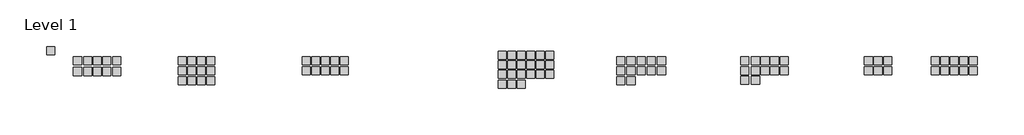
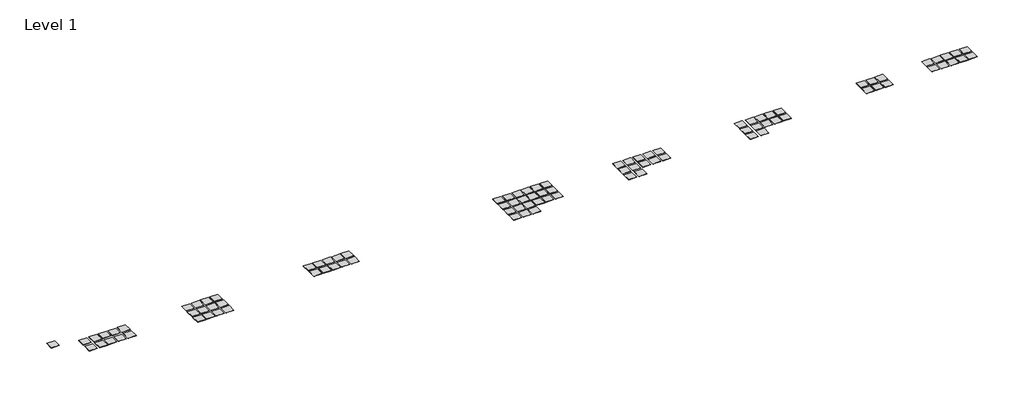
# One storey: 94 proxies.
"""IFC4 building model written with IfcOpenShell, lengths in millimetres."""

from ifc_helpers import new_model, si_unit, origin, place, context, project, spatial, transform, mapped, element, save
from components import materialsample_type_1_19775645

model = new_model("IFC4")

# Units and contexts
model_context = context("Model", 3, world=origin())
ifc_project = project(units=[si_unit("LENGTHUNIT", "METRE", prefix="MILLI")], contexts=[model_context])

# Site, building, storey
site = spatial("IfcSite", under=ifc_project)
building = spatial("IfcBuilding", under=site)
storey = spatial("IfcBuildingStorey", under=building, Name="Level 1", Elevation=0.0)

# Proxies
placement = place(None, origin())
materialsample_type_1_shape = materialsample_type_1_19775645(model_context)
element("IfcBuildingElementProxy", 1, Name="MaterialSample : Type 1", ObjectType="MaterialSample : Type 1", at=placement, inside=storey, context=model_context, shape_type="MappedRepresentation", body=[
    mapped(materialsample_type_1_shape, transform((-2999.0533633, 1142.4965193, 0.0), x_axis=(1.0, 0.0, 0.0), y_axis=(0.0, 1.0, 0.0), z_axis=(0.0, 0.0, 1.0))),
])
element("IfcBuildingElementProxy", 2, Name="MaterialSample : Type 1", ObjectType="MaterialSample : Type 1", at=placement, inside=storey, context=model_context, shape_type="MappedRepresentation", body=[
    mapped(materialsample_type_1_shape, transform((0.0, 0.0, 0.0), x_axis=(1.0, 0.0, 0.0), y_axis=(0.0, 1.0, 0.0), z_axis=(0.0, 0.0, 1.0))),
])
element("IfcBuildingElementProxy", 3, Name="MaterialSample : Type 1", ObjectType="MaterialSample : Type 1", at=placement, inside=storey, context=model_context, shape_type="MappedRepresentation", body=[
    mapped(materialsample_type_1_shape, transform((1162.05, 0.0, 0.0), x_axis=(1.0, 0.0, 0.0), y_axis=(0.0, 1.0, 0.0), z_axis=(0.0, 0.0, 1.0))),
])
element("IfcBuildingElementProxy", 4, Name="MaterialSample : Type 1", ObjectType="MaterialSample : Type 1", at=placement, inside=storey, context=model_context, shape_type="MappedRepresentation", body=[
    mapped(materialsample_type_1_shape, transform((2228.85, 0.0, 0.0), x_axis=(1.0, 0.0, 0.0), y_axis=(0.0, 1.0, 0.0), z_axis=(0.0, 0.0, 1.0))),
])
element("IfcBuildingElementProxy", 5, Name="MaterialSample : Type 1", ObjectType="MaterialSample : Type 1", at=placement, inside=storey, context=model_context, shape_type="MappedRepresentation", body=[
    mapped(materialsample_type_1_shape, transform((3295.65, 0.0, 0.0), x_axis=(1.0, 0.0, 0.0), y_axis=(0.0, 1.0, 0.0), z_axis=(0.0, 0.0, 1.0))),
])
element("IfcBuildingElementProxy", 6, Name="MaterialSample : Type 1", ObjectType="MaterialSample : Type 1", at=placement, inside=storey, context=model_context, shape_type="MappedRepresentation", body=[
    mapped(materialsample_type_1_shape, transform((0.0, -1186.702473, 0.0), x_axis=(1.0, 0.0, 0.0), y_axis=(0.0, 1.0, 0.0), z_axis=(0.0, 0.0, 1.0))),
])
element("IfcBuildingElementProxy", 7, Name="MaterialSample : Type 1", ObjectType="MaterialSample : Type 1", at=placement, inside=storey, context=model_context, shape_type="MappedRepresentation", body=[
    mapped(materialsample_type_1_shape, transform((1162.05, -1186.702473, 0.0), x_axis=(1.0, 0.0, 0.0), y_axis=(0.0, 1.0, 0.0), z_axis=(0.0, 0.0, 1.0))),
])
element("IfcBuildingElementProxy", 8, Name="MaterialSample : Type 1", ObjectType="MaterialSample : Type 1", at=placement, inside=storey, context=model_context, shape_type="MappedRepresentation", body=[
    mapped(materialsample_type_1_shape, transform((4404.369597, 0.0, 0.0), x_axis=(1.0, 0.0, 0.0), y_axis=(0.0, 1.0, 0.0), z_axis=(0.0, 0.0, 1.0))),
])
element("IfcBuildingElementProxy", 9, Name="MaterialSample : Type 1", ObjectType="MaterialSample : Type 1", at=placement, inside=storey, context=model_context, shape_type="MappedRepresentation", body=[
    mapped(materialsample_type_1_shape, transform((2236.7060856, -1186.702473, 0.0), x_axis=(1.0, 0.0, 0.0), y_axis=(0.0, 1.0, 0.0), z_axis=(0.0, 0.0, 1.0))),
])
element("IfcBuildingElementProxy", 10, Name="MaterialSample : Type 1", ObjectType="MaterialSample : Type 1", at=placement, inside=storey, context=model_context, shape_type="MappedRepresentation", body=[
    mapped(materialsample_type_1_shape, transform((3295.65, -1186.702473, 0.0), x_axis=(1.0, 0.0, 0.0), y_axis=(0.0, 1.0, 0.0), z_axis=(0.0, 0.0, 1.0))),
])
element("IfcBuildingElementProxy", 11, Name="MaterialSample : Type 1", ObjectType="MaterialSample : Type 1", at=placement, inside=storey, context=model_context, shape_type="MappedRepresentation", body=[
    mapped(materialsample_type_1_shape, transform((4404.369597, -1186.702473, 0.0), x_axis=(1.0, 0.0, 0.0), y_axis=(0.0, 1.0, 0.0), z_axis=(0.0, 0.0, 1.0))),
])
element("IfcBuildingElementProxy", 12, Name="MaterialSample : Type 1", ObjectType="MaterialSample : Type 1", at=placement, inside=storey, context=model_context, shape_type="MappedRepresentation", body=[
    mapped(materialsample_type_1_shape, transform((11734.8, 0.0, 0.0), x_axis=(1.0, 0.0, 0.0), y_axis=(0.0, 1.0, 0.0), z_axis=(0.0, 0.0, 1.0))),
])
element("IfcBuildingElementProxy", 13, Name="MaterialSample : Type 1", ObjectType="MaterialSample : Type 1", at=placement, inside=storey, context=model_context, shape_type="MappedRepresentation", body=[
    mapped(materialsample_type_1_shape, transform((12801.6, 0.0, 0.0), x_axis=(1.0, 0.0, 0.0), y_axis=(0.0, 1.0, 0.0), z_axis=(0.0, 0.0, 1.0))),
])
element("IfcBuildingElementProxy", 14, Name="MaterialSample : Type 1", ObjectType="MaterialSample : Type 1", at=placement, inside=storey, context=model_context, shape_type="MappedRepresentation", body=[
    mapped(materialsample_type_1_shape, transform((13868.4, 0.0, 0.0), x_axis=(1.0, 0.0, 0.0), y_axis=(0.0, 1.0, 0.0), z_axis=(0.0, 0.0, 1.0))),
])
element("IfcBuildingElementProxy", 15, Name="MaterialSample : Type 1", ObjectType="MaterialSample : Type 1", at=placement, inside=storey, context=model_context, shape_type="MappedRepresentation", body=[
    mapped(materialsample_type_1_shape, transform((14935.2, 0.0, 0.0), x_axis=(1.0, 0.0, 0.0), y_axis=(0.0, 1.0, 0.0), z_axis=(0.0, 0.0, 1.0))),
])
element("IfcBuildingElementProxy", 16, Name="MaterialSample : Type 1", ObjectType="MaterialSample : Type 1", at=placement, inside=storey, context=model_context, shape_type="MappedRepresentation", body=[
    mapped(materialsample_type_1_shape, transform((11734.8, -1119.3671079, 0.0), x_axis=(1.0, 0.0, 0.0), y_axis=(0.0, 1.0, 0.0), z_axis=(0.0, 0.0, 1.0))),
])
element("IfcBuildingElementProxy", 17, Name="MaterialSample : Type 1", ObjectType="MaterialSample : Type 1", at=placement, inside=storey, context=model_context, shape_type="MappedRepresentation", body=[
    mapped(materialsample_type_1_shape, transform((12801.6, -1119.3671079, 0.0), x_axis=(1.0, 0.0, 0.0), y_axis=(0.0, 1.0, 0.0), z_axis=(0.0, 0.0, 1.0))),
])
element("IfcBuildingElementProxy", 18, Name="MaterialSample : Type 1", ObjectType="MaterialSample : Type 1", at=placement, inside=storey, context=model_context, shape_type="MappedRepresentation", body=[
    mapped(materialsample_type_1_shape, transform((13868.4, -1119.3671079, 0.0), x_axis=(1.0, 0.0, 0.0), y_axis=(0.0, 1.0, 0.0), z_axis=(0.0, 0.0, 1.0))),
])
element("IfcBuildingElementProxy", 19, Name="MaterialSample : Type 1", ObjectType="MaterialSample : Type 1", at=placement, inside=storey, context=model_context, shape_type="MappedRepresentation", body=[
    mapped(materialsample_type_1_shape, transform((14935.2, -1119.3671079, 0.0), x_axis=(1.0, 0.0, 0.0), y_axis=(0.0, 1.0, 0.0), z_axis=(0.0, 0.0, 1.0))),
])
element("IfcBuildingElementProxy", 20, Name="MaterialSample : Type 1", ObjectType="MaterialSample : Type 1", at=placement, inside=storey, context=model_context, shape_type="MappedRepresentation", body=[
    mapped(materialsample_type_1_shape, transform((11734.8, -2223.4004199, 0.0), x_axis=(1.0, 0.0, 0.0), y_axis=(0.0, 1.0, 0.0), z_axis=(0.0, 0.0, 1.0))),
])
element("IfcBuildingElementProxy", 21, Name="MaterialSample : Type 1", ObjectType="MaterialSample : Type 1", at=placement, inside=storey, context=model_context, shape_type="MappedRepresentation", body=[
    mapped(materialsample_type_1_shape, transform((12801.6, -2223.4004199, 0.0), x_axis=(1.0, 0.0, 0.0), y_axis=(0.0, 1.0, 0.0), z_axis=(0.0, 0.0, 1.0))),
])
element("IfcBuildingElementProxy", 22, Name="MaterialSample : Type 1", ObjectType="MaterialSample : Type 1", at=placement, inside=storey, context=model_context, shape_type="MappedRepresentation", body=[
    mapped(materialsample_type_1_shape, transform((13868.4, -2223.4004199, 0.0), x_axis=(1.0, 0.0, 0.0), y_axis=(0.0, 1.0, 0.0), z_axis=(0.0, 0.0, 1.0))),
])
element("IfcBuildingElementProxy", 23, Name="MaterialSample : Type 1", ObjectType="MaterialSample : Type 1", at=placement, inside=storey, context=model_context, shape_type="MappedRepresentation", body=[
    mapped(materialsample_type_1_shape, transform((14935.2, -2223.4004199, 0.0), x_axis=(1.0, 0.0, 0.0), y_axis=(0.0, 1.0, 0.0), z_axis=(0.0, 0.0, 1.0))),
])
element("IfcBuildingElementProxy", 24, Name="MaterialSample : Type 1", ObjectType="MaterialSample : Type 1", at=placement, inside=storey, context=model_context, shape_type="MappedRepresentation", body=[
    mapped(materialsample_type_1_shape, transform((25603.2, 0.0, 0.0), x_axis=(1.0, 0.0, 0.0), y_axis=(0.0, 1.0, 0.0), z_axis=(0.0, 0.0, 1.0))),
])
element("IfcBuildingElementProxy", 25, Name="MaterialSample : Type 1", ObjectType="MaterialSample : Type 1", at=placement, inside=storey, context=model_context, shape_type="MappedRepresentation", body=[
    mapped(materialsample_type_1_shape, transform((26670.0, 0.0, 0.0), x_axis=(1.0, 0.0, 0.0), y_axis=(0.0, 1.0, 0.0), z_axis=(0.0, 0.0, 1.0))),
])
element("IfcBuildingElementProxy", 26, Name="MaterialSample : Type 1", ObjectType="MaterialSample : Type 1", at=placement, inside=storey, context=model_context, shape_type="MappedRepresentation", body=[
    mapped(materialsample_type_1_shape, transform((27736.8, 0.0, 0.0), x_axis=(1.0, 0.0, 0.0), y_axis=(0.0, 1.0, 0.0), z_axis=(0.0, 0.0, 1.0))),
])
element("IfcBuildingElementProxy", 27, Name="MaterialSample : Type 1", ObjectType="MaterialSample : Type 1", at=placement, inside=storey, context=model_context, shape_type="MappedRepresentation", body=[
    mapped(materialsample_type_1_shape, transform((28803.6, 0.0, 0.0), x_axis=(1.0, 0.0, 0.0), y_axis=(0.0, 1.0, 0.0), z_axis=(0.0, 0.0, 1.0))),
])
element("IfcBuildingElementProxy", 28, Name="MaterialSample : Type 1", ObjectType="MaterialSample : Type 1", at=placement, inside=storey, context=model_context, shape_type="MappedRepresentation", body=[
    mapped(materialsample_type_1_shape, transform((29870.4, 0.0, 0.0), x_axis=(1.0, 0.0, 0.0), y_axis=(0.0, 1.0, 0.0), z_axis=(0.0, 0.0, 1.0))),
])
element("IfcBuildingElementProxy", 29, Name="MaterialSample : Type 1", ObjectType="MaterialSample : Type 1", at=placement, inside=storey, context=model_context, shape_type="MappedRepresentation", body=[
    mapped(materialsample_type_1_shape, transform((25603.2, -1121.1829153, 0.0), x_axis=(1.0, 0.0, 0.0), y_axis=(0.0, 1.0, 0.0), z_axis=(0.0, 0.0, 1.0))),
])
element("IfcBuildingElementProxy", 30, Name="MaterialSample : Type 1", ObjectType="MaterialSample : Type 1", at=placement, inside=storey, context=model_context, shape_type="MappedRepresentation", body=[
    mapped(materialsample_type_1_shape, transform((26670.0, -1121.1829153, 0.0), x_axis=(1.0, 0.0, 0.0), y_axis=(0.0, 1.0, 0.0), z_axis=(0.0, 0.0, 1.0))),
])
element("IfcBuildingElementProxy", 31, Name="MaterialSample : Type 1", ObjectType="MaterialSample : Type 1", at=placement, inside=storey, context=model_context, shape_type="MappedRepresentation", body=[
    mapped(materialsample_type_1_shape, transform((27736.8, -1121.1829153, 0.0), x_axis=(1.0, 0.0, 0.0), y_axis=(0.0, 1.0, 0.0), z_axis=(0.0, 0.0, 1.0))),
])
element("IfcBuildingElementProxy", 32, Name="MaterialSample : Type 1", ObjectType="MaterialSample : Type 1", at=placement, inside=storey, context=model_context, shape_type="MappedRepresentation", body=[
    mapped(materialsample_type_1_shape, transform((28803.6, -1121.1829153, 0.0), x_axis=(1.0, 0.0, 0.0), y_axis=(0.0, 1.0, 0.0), z_axis=(0.0, 0.0, 1.0))),
])
element("IfcBuildingElementProxy", 33, Name="MaterialSample : Type 1", ObjectType="MaterialSample : Type 1", at=placement, inside=storey, context=model_context, shape_type="MappedRepresentation", body=[
    mapped(materialsample_type_1_shape, transform((29870.4, -1121.1829153, 0.0), x_axis=(1.0, 0.0, 0.0), y_axis=(0.0, 1.0, 0.0), z_axis=(0.0, 0.0, 1.0))),
])
element("IfcBuildingElementProxy", 34, Name="MaterialSample : Type 1", ObjectType="MaterialSample : Type 1", at=placement, inside=storey, context=model_context, shape_type="MappedRepresentation", body=[
    mapped(materialsample_type_1_shape, transform((47537.1654689, 639.6410063, 0.0), x_axis=(1.0, 0.0, 0.0), y_axis=(0.0, 1.0, 0.0), z_axis=(0.0, 0.0, 1.0))),
])
element("IfcBuildingElementProxy", 35, Name="MaterialSample : Type 1", ObjectType="MaterialSample : Type 1", at=placement, inside=storey, context=model_context, shape_type="MappedRepresentation", body=[
    mapped(materialsample_type_1_shape, transform((48603.9654689, 639.6410063, 0.0), x_axis=(1.0, 0.0, 0.0), y_axis=(0.0, 1.0, 0.0), z_axis=(0.0, 0.0, 1.0))),
])
element("IfcBuildingElementProxy", 36, Name="MaterialSample : Type 1", ObjectType="MaterialSample : Type 1", at=placement, inside=storey, context=model_context, shape_type="MappedRepresentation", body=[
    mapped(materialsample_type_1_shape, transform((49670.7654689, 639.6410063, 0.0), x_axis=(1.0, 0.0, 0.0), y_axis=(0.0, 1.0, 0.0), z_axis=(0.0, 0.0, 1.0))),
])
element("IfcBuildingElementProxy", 37, Name="MaterialSample : Type 1", ObjectType="MaterialSample : Type 1", at=placement, inside=storey, context=model_context, shape_type="MappedRepresentation", body=[
    mapped(materialsample_type_1_shape, transform((50737.5654689, 639.6410063, 0.0), x_axis=(1.0, 0.0, 0.0), y_axis=(0.0, 1.0, 0.0), z_axis=(0.0, 0.0, 1.0))),
])
element("IfcBuildingElementProxy", 38, Name="MaterialSample : Type 1", ObjectType="MaterialSample : Type 1", at=placement, inside=storey, context=model_context, shape_type="MappedRepresentation", body=[
    mapped(materialsample_type_1_shape, transform((51804.3654689, 639.6410063, 0.0), x_axis=(1.0, 0.0, 0.0), y_axis=(0.0, 1.0, 0.0), z_axis=(0.0, 0.0, 1.0))),
])
element("IfcBuildingElementProxy", 39, Name="MaterialSample : Type 1", ObjectType="MaterialSample : Type 1", at=placement, inside=storey, context=model_context, shape_type="MappedRepresentation", body=[
    mapped(materialsample_type_1_shape, transform((52871.1654689, 639.6410063, 0.0), x_axis=(1.0, 0.0, 0.0), y_axis=(0.0, 1.0, 0.0), z_axis=(0.0, 0.0, 1.0))),
])
element("IfcBuildingElementProxy", 40, Name="MaterialSample : Type 1", ObjectType="MaterialSample : Type 1", at=placement, inside=storey, context=model_context, shape_type="MappedRepresentation", body=[
    mapped(materialsample_type_1_shape, transform((47537.1654689, -429.5722238, 0.0), x_axis=(1.0, 0.0, 0.0), y_axis=(0.0, 1.0, 0.0), z_axis=(0.0, 0.0, 1.0))),
])
element("IfcBuildingElementProxy", 41, Name="MaterialSample : Type 1", ObjectType="MaterialSample : Type 1", at=placement, inside=storey, context=model_context, shape_type="MappedRepresentation", body=[
    mapped(materialsample_type_1_shape, transform((48603.9654689, -429.5722238, 0.0), x_axis=(1.0, 0.0, 0.0), y_axis=(0.0, 1.0, 0.0), z_axis=(0.0, 0.0, 1.0))),
])
element("IfcBuildingElementProxy", 42, Name="MaterialSample : Type 1", ObjectType="MaterialSample : Type 1", at=placement, inside=storey, context=model_context, shape_type="MappedRepresentation", body=[
    mapped(materialsample_type_1_shape, transform((49670.7654689, -429.5722238, 0.0), x_axis=(1.0, 0.0, 0.0), y_axis=(0.0, 1.0, 0.0), z_axis=(0.0, 0.0, 1.0))),
])
element("IfcBuildingElementProxy", 43, Name="MaterialSample : Type 1", ObjectType="MaterialSample : Type 1", at=placement, inside=storey, context=model_context, shape_type="MappedRepresentation", body=[
    mapped(materialsample_type_1_shape, transform((50737.5654689, -429.5722238, 0.0), x_axis=(1.0, 0.0, 0.0), y_axis=(0.0, 1.0, 0.0), z_axis=(0.0, 0.0, 1.0))),
])
element("IfcBuildingElementProxy", 44, Name="MaterialSample : Type 1", ObjectType="MaterialSample : Type 1", at=placement, inside=storey, context=model_context, shape_type="MappedRepresentation", body=[
    mapped(materialsample_type_1_shape, transform((51804.3654689, -429.5722238, 0.0), x_axis=(1.0, 0.0, 0.0), y_axis=(0.0, 1.0, 0.0), z_axis=(0.0, 0.0, 1.0))),
])
element("IfcBuildingElementProxy", 45, Name="MaterialSample : Type 1", ObjectType="MaterialSample : Type 1", at=placement, inside=storey, context=model_context, shape_type="MappedRepresentation", body=[
    mapped(materialsample_type_1_shape, transform((52871.1654689, -429.5722238, 0.0), x_axis=(1.0, 0.0, 0.0), y_axis=(0.0, 1.0, 0.0), z_axis=(0.0, 0.0, 1.0))),
])
element("IfcBuildingElementProxy", 46, Name="MaterialSample : Type 1", ObjectType="MaterialSample : Type 1", at=placement, inside=storey, context=model_context, shape_type="MappedRepresentation", body=[
    mapped(materialsample_type_1_shape, transform((47537.1654689, -1514.6207322, 0.0), x_axis=(1.0, 0.0, 0.0), y_axis=(0.0, 1.0, 0.0), z_axis=(0.0, 0.0, 1.0))),
])
element("IfcBuildingElementProxy", 47, Name="MaterialSample : Type 1", ObjectType="MaterialSample : Type 1", at=placement, inside=storey, context=model_context, shape_type="MappedRepresentation", body=[
    mapped(materialsample_type_1_shape, transform((48603.9654689, -1514.6207322, 0.0), x_axis=(1.0, 0.0, 0.0), y_axis=(0.0, 1.0, 0.0), z_axis=(0.0, 0.0, 1.0))),
])
element("IfcBuildingElementProxy", 48, Name="MaterialSample : Type 1", ObjectType="MaterialSample : Type 1", at=placement, inside=storey, context=model_context, shape_type="MappedRepresentation", body=[
    mapped(materialsample_type_1_shape, transform((49670.7654689, -1514.6207322, 0.0), x_axis=(1.0, 0.0, 0.0), y_axis=(0.0, 1.0, 0.0), z_axis=(0.0, 0.0, 1.0))),
])
element("IfcBuildingElementProxy", 49, Name="MaterialSample : Type 1", ObjectType="MaterialSample : Type 1", at=placement, inside=storey, context=model_context, shape_type="MappedRepresentation", body=[
    mapped(materialsample_type_1_shape, transform((50737.5654689, -1514.6207322, 0.0), x_axis=(1.0, 0.0, 0.0), y_axis=(0.0, 1.0, 0.0), z_axis=(0.0, 0.0, 1.0))),
])
element("IfcBuildingElementProxy", 50, Name="MaterialSample : Type 1", ObjectType="MaterialSample : Type 1", at=placement, inside=storey, context=model_context, shape_type="MappedRepresentation", body=[
    mapped(materialsample_type_1_shape, transform((51804.3654689, -1514.6207322, 0.0), x_axis=(1.0, 0.0, 0.0), y_axis=(0.0, 1.0, 0.0), z_axis=(0.0, 0.0, 1.0))),
])
element("IfcBuildingElementProxy", 51, Name="MaterialSample : Type 1", ObjectType="MaterialSample : Type 1", at=placement, inside=storey, context=model_context, shape_type="MappedRepresentation", body=[
    mapped(materialsample_type_1_shape, transform((52871.1654689, -1514.6207322, 0.0), x_axis=(1.0, 0.0, 0.0), y_axis=(0.0, 1.0, 0.0), z_axis=(0.0, 0.0, 1.0))),
])
element("IfcBuildingElementProxy", 52, Name="MaterialSample : Type 1", ObjectType="MaterialSample : Type 1", at=placement, inside=storey, context=model_context, shape_type="MappedRepresentation", body=[
    mapped(materialsample_type_1_shape, transform((47537.1654689, -2613.5796006, 0.0), x_axis=(1.0, 0.0, 0.0), y_axis=(0.0, 1.0, 0.0), z_axis=(0.0, 0.0, 1.0))),
])
element("IfcBuildingElementProxy", 53, Name="MaterialSample : Type 1", ObjectType="MaterialSample : Type 1", at=placement, inside=storey, context=model_context, shape_type="MappedRepresentation", body=[
    mapped(materialsample_type_1_shape, transform((48603.9654689, -2613.5796006, 0.0), x_axis=(1.0, 0.0, 0.0), y_axis=(0.0, 1.0, 0.0), z_axis=(0.0, 0.0, 1.0))),
])
element("IfcBuildingElementProxy", 54, Name="MaterialSample : Type 1", ObjectType="MaterialSample : Type 1", at=placement, inside=storey, context=model_context, shape_type="MappedRepresentation", body=[
    mapped(materialsample_type_1_shape, transform((49670.7654689, -2613.5796006, 0.0), x_axis=(1.0, 0.0, 0.0), y_axis=(0.0, 1.0, 0.0), z_axis=(0.0, 0.0, 1.0))),
])
element("IfcBuildingElementProxy", 55, Name="MaterialSample : Type 1", ObjectType="MaterialSample : Type 1", at=placement, inside=storey, context=model_context, shape_type="MappedRepresentation", body=[
    mapped(materialsample_type_1_shape, transform((60807.6, 0.0, 0.0), x_axis=(1.0, 0.0, 0.0), y_axis=(0.0, 1.0, 0.0), z_axis=(0.0, 0.0, 1.0))),
])
element("IfcBuildingElementProxy", 56, Name="MaterialSample : Type 1", ObjectType="MaterialSample : Type 1", at=placement, inside=storey, context=model_context, shape_type="MappedRepresentation", body=[
    mapped(materialsample_type_1_shape, transform((61950.6, 0.0, 0.0), x_axis=(1.0, 0.0, 0.0), y_axis=(0.0, 1.0, 0.0), z_axis=(0.0, 0.0, 1.0))),
])
element("IfcBuildingElementProxy", 57, Name="MaterialSample : Type 1", ObjectType="MaterialSample : Type 1", at=placement, inside=storey, context=model_context, shape_type="MappedRepresentation", body=[
    mapped(materialsample_type_1_shape, transform((63093.6, 0.0, 0.0), x_axis=(1.0, 0.0, 0.0), y_axis=(0.0, 1.0, 0.0), z_axis=(0.0, 0.0, 1.0))),
])
element("IfcBuildingElementProxy", 58, Name="MaterialSample : Type 1", ObjectType="MaterialSample : Type 1", at=placement, inside=storey, context=model_context, shape_type="MappedRepresentation", body=[
    mapped(materialsample_type_1_shape, transform((64236.6, 0.0, 0.0), x_axis=(1.0, 0.0, 0.0), y_axis=(0.0, 1.0, 0.0), z_axis=(0.0, 0.0, 1.0))),
])
element("IfcBuildingElementProxy", 59, Name="MaterialSample : Type 1", ObjectType="MaterialSample : Type 1", at=placement, inside=storey, context=model_context, shape_type="MappedRepresentation", body=[
    mapped(materialsample_type_1_shape, transform((65379.6, 0.0, 0.0), x_axis=(1.0, 0.0, 0.0), y_axis=(0.0, 1.0, 0.0), z_axis=(0.0, 0.0, 1.0))),
])
element("IfcBuildingElementProxy", 60, Name="MaterialSample : Type 1", ObjectType="MaterialSample : Type 1", at=placement, inside=storey, context=model_context, shape_type="MappedRepresentation", body=[
    mapped(materialsample_type_1_shape, transform((60807.6, -1093.9367445, 0.0), x_axis=(1.0, 0.0, 0.0), y_axis=(0.0, 1.0, 0.0), z_axis=(0.0, 0.0, 1.0))),
])
element("IfcBuildingElementProxy", 61, Name="MaterialSample : Type 1", ObjectType="MaterialSample : Type 1", at=placement, inside=storey, context=model_context, shape_type="MappedRepresentation", body=[
    mapped(materialsample_type_1_shape, transform((61950.6, -1093.9367445, 0.0), x_axis=(1.0, 0.0, 0.0), y_axis=(0.0, 1.0, 0.0), z_axis=(0.0, 0.0, 1.0))),
])
element("IfcBuildingElementProxy", 62, Name="MaterialSample : Type 1", ObjectType="MaterialSample : Type 1", at=placement, inside=storey, context=model_context, shape_type="MappedRepresentation", body=[
    mapped(materialsample_type_1_shape, transform((63093.6, -1093.9367445, 0.0), x_axis=(1.0, 0.0, 0.0), y_axis=(0.0, 1.0, 0.0), z_axis=(0.0, 0.0, 1.0))),
])
element("IfcBuildingElementProxy", 63, Name="MaterialSample : Type 1", ObjectType="MaterialSample : Type 1", at=placement, inside=storey, context=model_context, shape_type="MappedRepresentation", body=[
    mapped(materialsample_type_1_shape, transform((64236.6, -1093.9367445, 0.0), x_axis=(1.0, 0.0, 0.0), y_axis=(0.0, 1.0, 0.0), z_axis=(0.0, 0.0, 1.0))),
])
element("IfcBuildingElementProxy", 64, Name="MaterialSample : Type 1", ObjectType="MaterialSample : Type 1", at=placement, inside=storey, context=model_context, shape_type="MappedRepresentation", body=[
    mapped(materialsample_type_1_shape, transform((65379.6, -1093.9367445, 0.0), x_axis=(1.0, 0.0, 0.0), y_axis=(0.0, 1.0, 0.0), z_axis=(0.0, 0.0, 1.0))),
])
element("IfcBuildingElementProxy", 65, Name="MaterialSample : Type 1", ObjectType="MaterialSample : Type 1", at=placement, inside=storey, context=model_context, shape_type="MappedRepresentation", body=[
    mapped(materialsample_type_1_shape, transform((60807.6, -2242.5703262, 0.0), x_axis=(1.0, 0.0, 0.0), y_axis=(0.0, 1.0, 0.0), z_axis=(0.0, 0.0, 1.0))),
])
element("IfcBuildingElementProxy", 66, Name="MaterialSample : Type 1", ObjectType="MaterialSample : Type 1", at=placement, inside=storey, context=model_context, shape_type="MappedRepresentation", body=[
    mapped(materialsample_type_1_shape, transform((61950.6, -2242.5703262, 0.0), x_axis=(1.0, 0.0, 0.0), y_axis=(0.0, 1.0, 0.0), z_axis=(0.0, 0.0, 1.0))),
])
element("IfcBuildingElementProxy", 67, Name="MaterialSample : Type 1", ObjectType="MaterialSample : Type 1", at=placement, inside=storey, context=model_context, shape_type="MappedRepresentation", body=[
    mapped(materialsample_type_1_shape, transform((74676.0, 0.0, 0.0), x_axis=(1.0, 0.0, 0.0), y_axis=(0.0, 1.0, 0.0), z_axis=(0.0, 0.0, 1.0))),
])
element("IfcBuildingElementProxy", 68, Name="MaterialSample : Type 1", ObjectType="MaterialSample : Type 1", at=placement, inside=storey, context=model_context, shape_type="MappedRepresentation", body=[
    mapped(materialsample_type_1_shape, transform((75895.2, 0.0, 0.0), x_axis=(1.0, 0.0, 0.0), y_axis=(0.0, 1.0, 0.0), z_axis=(0.0, 0.0, 1.0))),
])
element("IfcBuildingElementProxy", 69, Name="MaterialSample : Type 1", ObjectType="MaterialSample : Type 1", at=placement, inside=storey, context=model_context, shape_type="MappedRepresentation", body=[
    mapped(materialsample_type_1_shape, transform((76962.0, 0.0, 0.0), x_axis=(1.0, 0.0, 0.0), y_axis=(0.0, 1.0, 0.0), z_axis=(0.0, 0.0, 1.0))),
])
element("IfcBuildingElementProxy", 70, Name="MaterialSample : Type 1", ObjectType="MaterialSample : Type 1", at=placement, inside=storey, context=model_context, shape_type="MappedRepresentation", body=[
    mapped(materialsample_type_1_shape, transform((78028.8, 0.0, 0.0), x_axis=(1.0, 0.0, 0.0), y_axis=(0.0, 1.0, 0.0), z_axis=(0.0, 0.0, 1.0))),
])
element("IfcBuildingElementProxy", 71, Name="MaterialSample : Type 1", ObjectType="MaterialSample : Type 1", at=placement, inside=storey, context=model_context, shape_type="MappedRepresentation", body=[
    mapped(materialsample_type_1_shape, transform((79095.6, 0.0, 0.0), x_axis=(1.0, 0.0, 0.0), y_axis=(0.0, 1.0, 0.0), z_axis=(0.0, 0.0, 1.0))),
])
element("IfcBuildingElementProxy", 72, Name="MaterialSample : Type 1", ObjectType="MaterialSample : Type 1", at=placement, inside=storey, context=model_context, shape_type="MappedRepresentation", body=[
    mapped(materialsample_type_1_shape, transform((74676.0, -1106.0305775, 0.0), x_axis=(1.0, 0.0, 0.0), y_axis=(0.0, 1.0, 0.0), z_axis=(0.0, 0.0, 1.0))),
])
element("IfcBuildingElementProxy", 73, Name="MaterialSample : Type 1", ObjectType="MaterialSample : Type 1", at=placement, inside=storey, context=model_context, shape_type="MappedRepresentation", body=[
    mapped(materialsample_type_1_shape, transform((75895.2, -1106.0305775, 0.0), x_axis=(1.0, 0.0, 0.0), y_axis=(0.0, 1.0, 0.0), z_axis=(0.0, 0.0, 1.0))),
])
element("IfcBuildingElementProxy", 74, Name="MaterialSample : Type 1", ObjectType="MaterialSample : Type 1", at=placement, inside=storey, context=model_context, shape_type="MappedRepresentation", body=[
    mapped(materialsample_type_1_shape, transform((76962.0, -1106.0305775, 0.0), x_axis=(1.0, 0.0, 0.0), y_axis=(0.0, 1.0, 0.0), z_axis=(0.0, 0.0, 1.0))),
])
element("IfcBuildingElementProxy", 75, Name="MaterialSample : Type 1", ObjectType="MaterialSample : Type 1", at=placement, inside=storey, context=model_context, shape_type="MappedRepresentation", body=[
    mapped(materialsample_type_1_shape, transform((78028.8, -1106.0305775, 0.0), x_axis=(1.0, 0.0, 0.0), y_axis=(0.0, 1.0, 0.0), z_axis=(0.0, 0.0, 1.0))),
])
element("IfcBuildingElementProxy", 76, Name="MaterialSample : Type 1", ObjectType="MaterialSample : Type 1", at=placement, inside=storey, context=model_context, shape_type="MappedRepresentation", body=[
    mapped(materialsample_type_1_shape, transform((79095.6, -1106.0305775, 0.0), x_axis=(1.0, 0.0, 0.0), y_axis=(0.0, 1.0, 0.0), z_axis=(0.0, 0.0, 1.0))),
])
element("IfcBuildingElementProxy", 77, Name="MaterialSample : Type 1", ObjectType="MaterialSample : Type 1", at=placement, inside=storey, context=model_context, shape_type="MappedRepresentation", body=[
    mapped(materialsample_type_1_shape, transform((74676.0, -2191.0790859, 0.0), x_axis=(1.0, 0.0, 0.0), y_axis=(0.0, 1.0, 0.0), z_axis=(0.0, 0.0, 1.0))),
])
element("IfcBuildingElementProxy", 78, Name="MaterialSample : Type 1", ObjectType="MaterialSample : Type 1", at=placement, inside=storey, context=model_context, shape_type="MappedRepresentation", body=[
    mapped(materialsample_type_1_shape, transform((75895.2, -2191.0790859, 0.0), x_axis=(1.0, 0.0, 0.0), y_axis=(0.0, 1.0, 0.0), z_axis=(0.0, 0.0, 1.0))),
])
element("IfcBuildingElementProxy", 79, Name="MaterialSample : Type 1", ObjectType="MaterialSample : Type 1", at=placement, inside=storey, context=model_context, shape_type="MappedRepresentation", body=[
    mapped(materialsample_type_1_shape, transform((89611.2, 0.0, 0.0), x_axis=(1.0, 0.0, 0.0), y_axis=(0.0, 1.0, 0.0), z_axis=(0.0, 0.0, 1.0))),
])
element("IfcBuildingElementProxy", 80, Name="MaterialSample : Type 1", ObjectType="MaterialSample : Type 1", at=placement, inside=storey, context=model_context, shape_type="MappedRepresentation", body=[
    mapped(materialsample_type_1_shape, transform((90678.0, 0.0, 0.0), x_axis=(1.0, 0.0, 0.0), y_axis=(0.0, 1.0, 0.0), z_axis=(0.0, 0.0, 1.0))),
])
element("IfcBuildingElementProxy", 81, Name="MaterialSample : Type 1", ObjectType="MaterialSample : Type 1", at=placement, inside=storey, context=model_context, shape_type="MappedRepresentation", body=[
    mapped(materialsample_type_1_shape, transform((88544.4, -1106.0305775, 0.0), x_axis=(1.0, 0.0, 0.0), y_axis=(0.0, 1.0, 0.0), z_axis=(0.0, 0.0, 1.0))),
])
element("IfcBuildingElementProxy", 82, Name="MaterialSample : Type 1", ObjectType="MaterialSample : Type 1", at=placement, inside=storey, context=model_context, shape_type="MappedRepresentation", body=[
    mapped(materialsample_type_1_shape, transform((89611.2, -1106.0305775, 0.0), x_axis=(1.0, 0.0, 0.0), y_axis=(0.0, 1.0, 0.0), z_axis=(0.0, 0.0, 1.0))),
])
element("IfcBuildingElementProxy", 83, Name="MaterialSample : Type 1", ObjectType="MaterialSample : Type 1", at=placement, inside=storey, context=model_context, shape_type="MappedRepresentation", body=[
    mapped(materialsample_type_1_shape, transform((90678.0, -1106.0305775, 0.0), x_axis=(1.0, 0.0, 0.0), y_axis=(0.0, 1.0, 0.0), z_axis=(0.0, 0.0, 1.0))),
])
element("IfcBuildingElementProxy", 84, Name="MaterialSample : Type 1", ObjectType="MaterialSample : Type 1", at=placement, inside=storey, context=model_context, shape_type="MappedRepresentation", body=[
    mapped(materialsample_type_1_shape, transform((96012.0, 0.0, 0.0), x_axis=(1.0, 0.0, 0.0), y_axis=(0.0, 1.0, 0.0), z_axis=(0.0, 0.0, 1.0))),
])
element("IfcBuildingElementProxy", 85, Name="MaterialSample : Type 1", ObjectType="MaterialSample : Type 1", at=placement, inside=storey, context=model_context, shape_type="MappedRepresentation", body=[
    mapped(materialsample_type_1_shape, transform((97078.8, 0.0, 0.0), x_axis=(1.0, 0.0, 0.0), y_axis=(0.0, 1.0, 0.0), z_axis=(0.0, 0.0, 1.0))),
])
element("IfcBuildingElementProxy", 86, Name="MaterialSample : Type 1", ObjectType="MaterialSample : Type 1", at=placement, inside=storey, context=model_context, shape_type="MappedRepresentation", body=[
    mapped(materialsample_type_1_shape, transform((98145.6, 0.0, 0.0), x_axis=(1.0, 0.0, 0.0), y_axis=(0.0, 1.0, 0.0), z_axis=(0.0, 0.0, 1.0))),
])
element("IfcBuildingElementProxy", 87, Name="MaterialSample : Type 1", ObjectType="MaterialSample : Type 1", at=placement, inside=storey, context=model_context, shape_type="MappedRepresentation", body=[
    mapped(materialsample_type_1_shape, transform((99212.4, 0.0, 0.0), x_axis=(1.0, 0.0, 0.0), y_axis=(0.0, 1.0, 0.0), z_axis=(0.0, 0.0, 1.0))),
])
element("IfcBuildingElementProxy", 88, Name="MaterialSample : Type 1", ObjectType="MaterialSample : Type 1", at=placement, inside=storey, context=model_context, shape_type="MappedRepresentation", body=[
    mapped(materialsample_type_1_shape, transform((100279.2, 0.0, 0.0), x_axis=(1.0, 0.0, 0.0), y_axis=(0.0, 1.0, 0.0), z_axis=(0.0, 0.0, 1.0))),
])
element("IfcBuildingElementProxy", 89, Name="MaterialSample : Type 1", ObjectType="MaterialSample : Type 1", at=placement, inside=storey, context=model_context, shape_type="MappedRepresentation", body=[
    mapped(materialsample_type_1_shape, transform((96012.0, -1106.0305775, 0.0), x_axis=(1.0, 0.0, 0.0), y_axis=(0.0, 1.0, 0.0), z_axis=(0.0, 0.0, 1.0))),
])
element("IfcBuildingElementProxy", 90, Name="MaterialSample : Type 1", ObjectType="MaterialSample : Type 1", at=placement, inside=storey, context=model_context, shape_type="MappedRepresentation", body=[
    mapped(materialsample_type_1_shape, transform((97078.8, -1106.0305775, 0.0), x_axis=(1.0, 0.0, 0.0), y_axis=(0.0, 1.0, 0.0), z_axis=(0.0, 0.0, 1.0))),
])
element("IfcBuildingElementProxy", 91, Name="MaterialSample : Type 1", ObjectType="MaterialSample : Type 1", at=placement, inside=storey, context=model_context, shape_type="MappedRepresentation", body=[
    mapped(materialsample_type_1_shape, transform((98145.6, -1106.0305775, 0.0), x_axis=(1.0, 0.0, 0.0), y_axis=(0.0, 1.0, 0.0), z_axis=(0.0, 0.0, 1.0))),
])
element("IfcBuildingElementProxy", 92, Name="MaterialSample : Type 1", ObjectType="MaterialSample : Type 1", at=placement, inside=storey, context=model_context, shape_type="MappedRepresentation", body=[
    mapped(materialsample_type_1_shape, transform((99212.4, -1106.0305775, 0.0), x_axis=(1.0, 0.0, 0.0), y_axis=(0.0, 1.0, 0.0), z_axis=(0.0, 0.0, 1.0))),
])
element("IfcBuildingElementProxy", 93, Name="MaterialSample : Type 1", ObjectType="MaterialSample : Type 1", at=placement, inside=storey, context=model_context, shape_type="MappedRepresentation", body=[
    mapped(materialsample_type_1_shape, transform((100279.2, -1106.0305775, 0.0), x_axis=(1.0, 0.0, 0.0), y_axis=(0.0, 1.0, 0.0), z_axis=(0.0, 0.0, 1.0))),
])
element("IfcBuildingElementProxy", 94, Name="MaterialSample : Type 1", ObjectType="MaterialSample : Type 1", at=placement, inside=storey, context=model_context, shape_type="MappedRepresentation", body=[
    mapped(materialsample_type_1_shape, transform((88544.4, 0.0, 0.0), x_axis=(1.0, 0.0, 0.0), y_axis=(0.0, 1.0, 0.0), z_axis=(0.0, 0.0, 1.0))),
])

save(model, "model.ifc")
